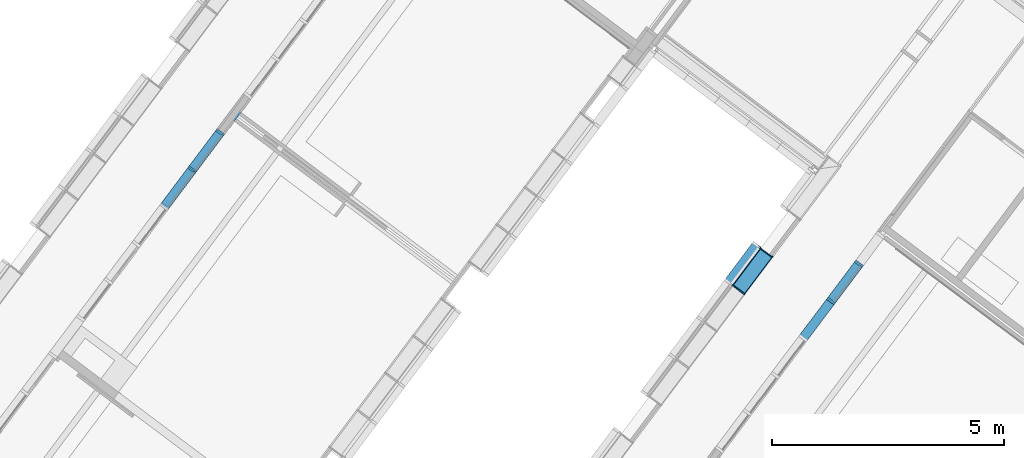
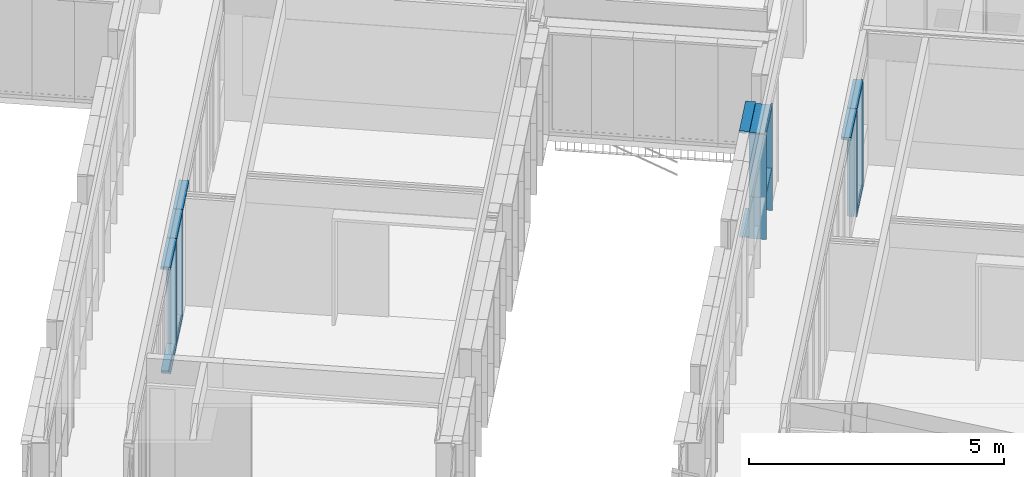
# One storey, part 49 of 243: 20 members, 4 elements without a shape of their own.
"""IFC2X3 building model written with IfcOpenShell, lengths in metres."""

from ifc_helpers import new_model, entity, si_unit, converted_unit, derived_unit, direction, frame, frame_2d, origin, place, context, subcontext, project, spatial, polyline, circle_curve, parameter, trimmed, segment, composite_curve, rectangle, outline, extrude, source, transform, mapped, material, type_object, type_shapes, element, aggregate, save


model = new_model("IFC2X3")

# Units and contexts
model_context = context("Model", 3, precision=1e-05, world=origin(), true_north=direction((6.123031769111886e-17, 1.0)))
body_context = subcontext(model_context, "Body", "Model", "MODEL_VIEW")
ifc_project = project(units=[si_unit("LENGTHUNIT", "METRE"), si_unit("AREAUNIT", "SQUARE_METRE"), si_unit("VOLUMEUNIT", "CUBIC_METRE"), converted_unit("PLANEANGLEUNIT", "DEGREE", entity("IfcRatioMeasure", 0.017453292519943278), si_unit("PLANEANGLEUNIT", "RADIAN"), dimensions=[0, 0, 0, 0, 0, 0, 0]), si_unit("MASSUNIT", "GRAM", prefix="KILO"), derived_unit("MASSDENSITYUNIT", [(si_unit("MASSUNIT", "GRAM", prefix="KILO"), 1), (si_unit("LENGTHUNIT", "METRE"), -3)]), derived_unit("IONCONCENTRATIONUNIT", [(si_unit("MASSUNIT", "GRAM", prefix="KILO"), 1), (si_unit("LENGTHUNIT", "METRE"), -3)]), derived_unit("MOMENTOFINERTIAUNIT", [(si_unit("LENGTHUNIT", "METRE"), 4)]), si_unit("TIMEUNIT", "SECOND"), si_unit("FREQUENCYUNIT", "HERTZ"), si_unit("THERMODYNAMICTEMPERATUREUNIT", "DEGREE_CELSIUS"), derived_unit("THERMALTRANSMITTANCEUNIT", [(si_unit("MASSUNIT", "GRAM", prefix="KILO"), 1), (si_unit("THERMODYNAMICTEMPERATUREUNIT", "KELVIN"), -1), (si_unit("TIMEUNIT", "SECOND"), -3)]), derived_unit("THERMALCONDUCTANCEUNIT", [(si_unit("MASSUNIT", "GRAM", prefix="KILO"), 1), (si_unit("THERMODYNAMICTEMPERATUREUNIT", "KELVIN"), -1), (si_unit("TIMEUNIT", "SECOND"), -3), (si_unit("LENGTHUNIT", "METRE"), 1)]), derived_unit("VOLUMETRICFLOWRATEUNIT", [(si_unit("LENGTHUNIT", "METRE"), 3), (si_unit("TIMEUNIT", "SECOND"), -1)]), derived_unit("MASSFLOWRATEUNIT", [(si_unit("MASSUNIT", "GRAM", prefix="KILO"), 1), (si_unit("TIMEUNIT", "SECOND"), -1)]), derived_unit("ROTATIONALFREQUENCYUNIT", [(si_unit("TIMEUNIT", "SECOND"), -1)]), si_unit("ELECTRICCURRENTUNIT", "AMPERE"), si_unit("ELECTRICVOLTAGEUNIT", "VOLT"), si_unit("POWERUNIT", "WATT"), si_unit("FORCEUNIT", "NEWTON", prefix="KILO"), si_unit("ILLUMINANCEUNIT", "LUX"), si_unit("LUMINOUSFLUXUNIT", "LUMEN"), si_unit("LUMINOUSINTENSITYUNIT", "CANDELA"), derived_unit("USERDEFINED", [(si_unit("MASSUNIT", "GRAM", prefix="KILO"), -1), (si_unit("LENGTHUNIT", "METRE"), -2), (si_unit("TIMEUNIT", "SECOND"), 3), (si_unit("LUMINOUSFLUXUNIT", "LUMEN"), 1)]), derived_unit("USERDEFINED", [(si_unit("MASSUNIT", "GRAM", prefix="KILO"), 1), (si_unit("TIMEUNIT", "SECOND"), -3), (si_unit("LENGTHUNIT", "METRE"), 3), (si_unit("ELECTRICCURRENTUNIT", "AMPERE"), -2)]), derived_unit("SOUNDPOWERUNIT", [(si_unit("MASSUNIT", "GRAM", prefix="KILO"), 1), (si_unit("TIMEUNIT", "SECOND"), -3), (si_unit("LENGTHUNIT", "METRE"), 2)]), derived_unit("SOUNDPRESSUREUNIT", [(si_unit("MASSUNIT", "GRAM", prefix="KILO"), 1), (si_unit("LENGTHUNIT", "METRE"), -1), (si_unit("TIMEUNIT", "SECOND"), -2)]), derived_unit("LINEARVELOCITYUNIT", [(si_unit("LENGTHUNIT", "METRE"), 1), (si_unit("TIMEUNIT", "SECOND"), -1)]), si_unit("PRESSUREUNIT", "PASCAL"), derived_unit("USERDEFINED", [(si_unit("MASSUNIT", "GRAM", prefix="KILO"), 1), (si_unit("LENGTHUNIT", "METRE"), -2), (si_unit("TIMEUNIT", "SECOND"), -2)]), derived_unit("LINEARFORCEUNIT", [(si_unit("MASSUNIT", "GRAM", prefix="KILO"), 1), (si_unit("TIMEUNIT", "SECOND"), -2)]), derived_unit("PLANARFORCEUNIT", [(si_unit("MASSUNIT", "GRAM", prefix="KILO"), 1), (si_unit("LENGTHUNIT", "METRE"), -1), (si_unit("TIMEUNIT", "SECOND"), -2)]), derived_unit("SPECIFICHEATCAPACITYUNIT", [(si_unit("THERMODYNAMICTEMPERATUREUNIT", "KELVIN"), -1), (si_unit("LENGTHUNIT", "METRE"), 2), (si_unit("TIMEUNIT", "SECOND"), -2)]), derived_unit("HEATINGVALUEUNIT", [(si_unit("LENGTHUNIT", "METRE"), 2), (si_unit("TIMEUNIT", "SECOND"), -2)]), derived_unit("VAPORPERMEABILITYUNIT", [(si_unit("LENGTHUNIT", "METRE"), -1), (si_unit("TIMEUNIT", "SECOND"), 1)]), derived_unit("DYNAMICVISCOSITYUNIT", [(si_unit("MASSUNIT", "GRAM", prefix="KILO"), 1), (si_unit("TIMEUNIT", "SECOND"), -1), (si_unit("LENGTHUNIT", "METRE"), -1)]), derived_unit("THERMALEXPANSIONCOEFFICIENTUNIT", [(si_unit("THERMODYNAMICTEMPERATUREUNIT", "KELVIN"), -1)]), derived_unit("MODULUSOFELASTICITYUNIT", [(si_unit("MASSUNIT", "GRAM", prefix="KILO"), 1), (si_unit("LENGTHUNIT", "METRE"), -1), (si_unit("TIMEUNIT", "SECOND"), -2)]), derived_unit("ISOTHERMALMOISTURECAPACITYUNIT", [(si_unit("LENGTHUNIT", "METRE"), 3), (si_unit("MASSUNIT", "GRAM", prefix="KILO"), -1)]), derived_unit("MOISTUREDIFFUSIVITYUNIT", [(si_unit("TIMEUNIT", "SECOND"), -1), (si_unit("LENGTHUNIT", "METRE"), 2)])], contexts=[model_context])

# Site, building, storey
site_placement = place(None, frame((0.0, 0.0, 235.0), z_axis=(0.0, 0.0, 1.0), x_axis=(-0.7996477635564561, 0.6004693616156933, 0.0)))
site = spatial("IfcSite", under=ifc_project, at=site_placement, Name="Default", CompositionType="ELEMENT")
building_placement = place(site_placement, origin())
building = spatial("IfcBuilding", under=site, at=building_placement, CompositionType="ELEMENT")
storey_placement = place(building_placement, origin())
storey = spatial("IfcBuildingStorey", under=building, at=storey_placement, Name="P0- Escola", CompositionType="ELEMENT", Elevation=0.0)

# Curtain wall, members
curtain_wall_type_1 = type_object("IfcCurtainWallType", Name="Muro cortina:MC- INT- a1", PredefinedType="NOTDEFINED")
curtain_wall_1_placement = place(storey_placement, origin())
curtain_wall_1 = element("IfcCurtainWall", 1, at=curtain_wall_1_placement, inside=storey, type_object=curtain_wall_type_1, Name="Muro cortina:MC- INT- a1", ObjectType="Muro cortina:MC- INT- a1")
ifc_material_1 = material(Name="_Fusta massisa- T1")
member_type_1 = type_object("IfcMemberType", Name="Montante rectangular:MC- Fusta- 20x6 cm- Esquerra", PredefinedType="MULLION", material=ifc_material_1)
shared_shape_1 = source(origin(), body_context, "Body", "SweptSolid", [
    extrude(outline(polyline([(-0.07000000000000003, -0.01875000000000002), (-0.04000000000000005, -0.01875000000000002), (-0.04000000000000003, -0.0037500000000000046), (-0.020000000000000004, -0.0037500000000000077), (-0.02, -0.018750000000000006), (0.13, -0.018749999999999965), (0.12999999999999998, 0.04125000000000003), (-0.06999999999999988, 0.04124999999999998), (-0.07000000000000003, -0.01875000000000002)])), frame((-0.041249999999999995, -0.03, -1.0), z_axis=(0.0, 0.0, 1.0), x_axis=(0.0, -1.0, 0.0)), (0.0, 0.0, 1.0), 0.9999999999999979),
])
type_shapes(member_type_1, [shared_shape_1])
member_1_placement = place(curtain_wall_1_placement, frame((47.320147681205, -35.4151899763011, 2.565), z_axis=(0.0, -1.0, 0.0), x_axis=(0.0, 0.0, 1.0)))
member_1 = element("IfcMember", 2, at=member_1_placement, type_object=member_type_1, material=ifc_material_1, Name="Montante rectangular:MC- Fusta- 20x6 cm- Esquerra", ObjectType="Montante rectangular:MC- Fusta- 20x6 cm- Esquerra", context=body_context, shape_type="MappedRepresentation", body=[
    mapped(shared_shape_1, transform((0.0, 0.0, 0.0), scale=1.0)),
])
member_type_2 = type_object("IfcMemberType", Name="Montante rectangular:MC- Fusta- 20x6 cm- Esquerra", PredefinedType="MULLION", material=ifc_material_1)
shared_shape_2 = source(origin(), body_context, "Body", "SweptSolid", [
    extrude(outline(polyline([(-0.07000000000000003, -0.01875000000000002), (-0.04000000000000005, -0.01875000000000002), (-0.04000000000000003, -0.0037500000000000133), (-0.020000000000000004, -0.0037500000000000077), (-0.02, -0.018750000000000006), (0.13, -0.018749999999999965), (0.12999999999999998, 0.04125000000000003), (-0.06999999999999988, 0.04124999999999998), (-0.07000000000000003, -0.01875000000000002)])), frame((-0.01124999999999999, -0.03, -2.5050000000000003), z_axis=(0.0, 0.0, 1.0), x_axis=(0.0, -1.0, 0.0)), (0.0, 0.0, 1.0), 2.5050000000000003),
])
type_shapes(member_type_2, [shared_shape_2])
member_2_placement = place(curtain_wall_1_placement, frame((47.320147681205, -35.4151899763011, 0.0), z_axis=(0.0, 0.0, -1.0), x_axis=(0.0, -1.0, 0.0)))
member_2 = element("IfcMember", 3, at=member_2_placement, type_object=member_type_2, material=ifc_material_1, Name="Montante rectangular:MC- Fusta- 20x6 cm- Esquerra", ObjectType="Montante rectangular:MC- Fusta- 20x6 cm- Esquerra", context=body_context, shape_type="MappedRepresentation", body=[
    mapped(shared_shape_2, transform((0.0, 0.0, 0.0), scale=1.0)),
])

# Curtain wall, member
curtain_wall_2_placement = place(storey_placement, origin())
curtain_wall_2 = element("IfcCurtainWall", 4, at=curtain_wall_2_placement, inside=storey, type_object=curtain_wall_type_1, Name="Muro cortina:MC- INT- a1", ObjectType="Muro cortina:MC- INT- a1")
member_3_placement = place(curtain_wall_2_placement, frame((60.020147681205, -29.415189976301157, 0.0), z_axis=(0.0, 0.0, -1.0), x_axis=(0.0, -1.0, 0.0)))
member_3 = element("IfcMember", 5, at=member_3_placement, type_object=member_type_2, material=ifc_material_1, Name="Montante rectangular:MC- Fusta- 20x6 cm- Esquerra", ObjectType="Montante rectangular:MC- Fusta- 20x6 cm- Esquerra", context=body_context, shape_type="MappedRepresentation", body=[
    mapped(shared_shape_2, transform((0.0, 0.0, 0.0), scale=1.0)),
])

# Member
member_type_3 = type_object("IfcMemberType", Name="Montante rectangular:MC- Fusta- 20x6 cm- Neutre", PredefinedType="MULLION", material=ifc_material_1)
shared_shape_3 = source(origin(), body_context, "Body", "SweptSolid", [
    extrude(rectangle(XDim=0.2, YDim=0.060000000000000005, at=frame_2d((-4.85722573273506e-17, -3.469446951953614e-18), x_axis=(1.0, 0.0))), frame((-0.03, -0.060000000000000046, -1.0), z_axis=(0.0, 0.0, 1.0), x_axis=(0.0, -1.0, 0.0)), (0.0, 0.0, 1.0), 0.9999999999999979),
])
type_shapes(member_type_3, [shared_shape_3])
member_4_placement = place(curtain_wall_1_placement, frame((47.320147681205, -34.41518997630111, 2.565), z_axis=(0.0, -1.0, 0.0), x_axis=(0.0, 0.0, 1.0)))
member_4 = element("IfcMember", 6, at=member_4_placement, type_object=member_type_3, material=ifc_material_1, Name="Montante rectangular:MC- Fusta- 20x6 cm- Neutre", ObjectType="Montante rectangular:MC- Fusta- 20x6 cm- Neutre", context=body_context, shape_type="MappedRepresentation", body=[
    mapped(shared_shape_3, transform((0.0, 0.0, 0.0), scale=1.0)),
])

member_5_placement = place(curtain_wall_2_placement, frame((60.020147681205, -30.415189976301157, 2.565), z_axis=(0.0, -1.0, 0.0), x_axis=(0.0, 0.0, 1.0)))
member_5 = element("IfcMember", 7, at=member_5_placement, type_object=member_type_3, material=ifc_material_1, Name="Montante rectangular:MC- Fusta- 20x6 cm- Neutre", ObjectType="Montante rectangular:MC- Fusta- 20x6 cm- Neutre", context=body_context, shape_type="MappedRepresentation", body=[
    mapped(shared_shape_3, transform((0.0, 0.0, 0.0), scale=1.0)),
])

member_type_4 = type_object("IfcMemberType", Name="Montante rectangular:MC- Fusta- 20x6 cm- Dreta", PredefinedType="MULLION", material=ifc_material_1)
shared_shape_4 = source(origin(), body_context, "Body", "SweptSolid", [
    extrude(outline(polyline([(-0.07000000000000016, -0.041249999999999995), (0.13000000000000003, -0.041249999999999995), (0.13000000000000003, 0.01875), (-0.019999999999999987, 0.01875), (-0.019999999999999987, 0.00375), (-0.04000000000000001, 0.00375), (-0.03999999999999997, 0.01875), (-0.06999999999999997, 0.01875), (-0.07000000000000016, -0.041249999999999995)])), frame((0.011250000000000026, -0.02999999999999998, -2.5050000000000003), z_axis=(0.0, 0.0, 1.0), x_axis=(0.0, -1.0, 0.0)), (0.0, 0.0, 1.0), 2.5050000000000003),
])
type_shapes(member_type_4, [shared_shape_4])
member_6_placement = place(curtain_wall_1_placement, frame((47.320147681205, -34.41518997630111, 0.0), z_axis=(0.0, 0.0, -1.0), x_axis=(0.0, -1.0, 0.0)))
member_6 = element("IfcMember", 8, at=member_6_placement, type_object=member_type_4, material=ifc_material_1, Name="Montante rectangular:MC- Fusta- 20x6 cm- Dreta", ObjectType="Montante rectangular:MC- Fusta- 20x6 cm- Dreta", context=body_context, shape_type="MappedRepresentation", body=[
    mapped(shared_shape_4, transform((0.0, 0.0, 0.0), scale=1.0)),
])

member_type_5 = type_object("IfcMemberType", Name="Montante rectangular:MC- Fusta- 20x6 cm- Esquerra", PredefinedType="MULLION", material=ifc_material_1)
shared_shape_5 = source(origin(), body_context, "Body", "SweptSolid", [
    extrude(outline(polyline([(-0.07000000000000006, -0.01875000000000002), (-0.04000000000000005, -0.01875000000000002), (-0.04000000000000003, -0.0037500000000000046), (-0.02, -0.0037500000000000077), (-0.019999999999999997, -0.018750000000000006), (0.13, -0.018749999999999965), (0.12999999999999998, 0.04125000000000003), (-0.06999999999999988, 0.04124999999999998), (-0.07000000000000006, -0.01875000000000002)])), frame((-0.041249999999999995, -0.029999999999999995, -1.0), z_axis=(0.0, 0.0, 1.0), x_axis=(0.0, -1.0, 0.0)), (0.0, 0.0, 1.0), 0.9999999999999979),
])
type_shapes(member_type_5, [shared_shape_5])
member_7_placement = place(curtain_wall_2_placement, frame((60.020147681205, -29.415189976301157, 2.565), z_axis=(0.0, -1.0, 0.0), x_axis=(0.0, 0.0, 1.0)))
member_7 = element("IfcMember", 9, at=member_7_placement, type_object=member_type_5, material=ifc_material_1, Name="Montante rectangular:MC- Fusta- 20x6 cm- Esquerra", ObjectType="Montante rectangular:MC- Fusta- 20x6 cm- Esquerra", context=body_context, shape_type="MappedRepresentation", body=[
    mapped(shared_shape_5, transform((0.0, 0.0, 0.0), scale=1.0)),
])

member_type_6 = type_object("IfcMemberType", Name="Montante rectangular:MC- Fusta- 20x6 cm- Centre", PredefinedType="MULLION", material=ifc_material_1)
shared_shape_6 = source(origin(), body_context, "Body", "SweptSolid", [
    extrude(outline(polyline([(-0.06000000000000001, -0.030000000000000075), (-0.03, -0.030000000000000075), (-0.029999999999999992, -0.015000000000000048), (-0.009999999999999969, -0.01499999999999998), (-0.009999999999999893, -0.030000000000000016), (0.14000000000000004, -0.029999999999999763), (0.13999999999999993, 0.030000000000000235), (-0.010000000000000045, 0.02999999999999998), (-0.01000000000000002, 0.014999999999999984), (-0.030000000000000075, 0.014999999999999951), (-0.03000000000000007, 0.029999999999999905), (-0.059999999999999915, 0.029999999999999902), (-0.06000000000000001, -0.030000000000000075)])), frame((0.0, -0.019999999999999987, -2.505000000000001), z_axis=(0.0, 0.0, 1.0), x_axis=(0.0, -1.0, 0.0)), (0.0, 0.0, 1.0), 2.5050000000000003),
])
type_shapes(member_type_6, [shared_shape_6])
member_8_placement = place(curtain_wall_2_placement, frame((60.020147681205, -28.41518997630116, 0.0), z_axis=(0.0, 0.0, -1.0), x_axis=(0.0, -1.0, 0.0)))
member_8 = element("IfcMember", 10, at=member_8_placement, type_object=member_type_6, material=ifc_material_1, Name="Montante rectangular:MC- Fusta- 20x6 cm- Centre", ObjectType="Montante rectangular:MC- Fusta- 20x6 cm- Centre", context=body_context, shape_type="MappedRepresentation", body=[
    mapped(shared_shape_6, transform((0.0, 0.0, 0.0), scale=1.0)),
])

member_type_7 = type_object("IfcMemberType", Name="Montante rectangular:MC- Fusta- 20x6 cm- Esquerra", PredefinedType="MULLION", material=ifc_material_1)
shared_shape_7 = source(origin(), body_context, "Body", "SweptSolid", [
    extrude(outline(polyline([(-0.07000000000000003, -0.01875000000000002), (-0.04000000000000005, -0.01875000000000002), (-0.04000000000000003, -0.0037500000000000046), (-0.020000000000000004, -0.0037500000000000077), (-0.02, -0.018750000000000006), (0.13, -0.018749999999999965), (0.12999999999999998, 0.04125000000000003), (-0.06999999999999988, 0.04124999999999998), (-0.07000000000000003, -0.01875000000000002)])), frame((-0.041249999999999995, -0.03, -1.0), z_axis=(0.0, 0.0, 1.0), x_axis=(0.0, -1.0, 0.0)), (0.0, 0.0, 1.0), 0.9999999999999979),
])
type_shapes(member_type_7, [shared_shape_7])
member_9_placement = place(curtain_wall_2_placement, frame((60.020147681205, -28.41518997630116, 2.565), z_axis=(0.0, -1.0, 0.0), x_axis=(0.0, 0.0, 1.0)))
member_9 = element("IfcMember", 11, at=member_9_placement, type_object=member_type_7, material=ifc_material_1, Name="Montante rectangular:MC- Fusta- 20x6 cm- Esquerra", ObjectType="Montante rectangular:MC- Fusta- 20x6 cm- Esquerra", context=body_context, shape_type="MappedRepresentation", body=[
    mapped(shared_shape_7, transform((0.0, 0.0, 0.0), scale=1.0)),
])

member_type_8 = type_object("IfcMemberType", Name="Montante rectangular:MC- Fusta- 20x6 cm- Inferior", PredefinedType="MULLION", material=ifc_material_1)
shared_shape_8 = source(origin(), body_context, "Body", "SweptSolid", [
    extrude(outline(polyline([(-0.06999999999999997, -0.018750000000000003), (-0.039999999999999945, -0.018750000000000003), (-0.03999999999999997, -0.003750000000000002), (-0.019999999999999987, -0.0037500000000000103), (-0.019999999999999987, -0.018750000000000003), (0.13000000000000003, -0.018750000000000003), (0.13000000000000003, 0.041249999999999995), (-0.07000000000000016, 0.041249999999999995), (-0.06999999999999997, -0.018750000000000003)])), frame((-0.041249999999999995, -0.02999999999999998, -0.9399999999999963), z_axis=(0.0, 0.0, 1.0), x_axis=(0.0, -1.0, 0.0)), (0.0, 0.0, 1.0), 0.9399999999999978),
])
type_shapes(member_type_8, [shared_shape_8])
member_10_placement = place(curtain_wall_1_placement, frame((47.320147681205, -34.44518997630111, 0.0), z_axis=(0.0, 1.0, 0.0), x_axis=(0.0, 0.0, -1.0)))
member_10 = element("IfcMember", 12, at=member_10_placement, type_object=member_type_8, material=ifc_material_1, Name="Montante rectangular:MC- Fusta- 20x6 cm- Inferior", ObjectType="Montante rectangular:MC- Fusta- 20x6 cm- Inferior", context=body_context, shape_type="MappedRepresentation", body=[
    mapped(shared_shape_8, transform((0.0, 0.0, 0.0), scale=1.0)),
])

aggregate(curtain_wall_1, [member_1, member_2, member_4, member_6, member_10])

member_11_placement = place(curtain_wall_2_placement, frame((60.020147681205, -28.44518997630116, 0.0), z_axis=(0.0, 1.0, 0.0), x_axis=(0.0, 0.0, -1.0)))
member_11 = element("IfcMember", 13, at=member_11_placement, type_object=member_type_8, material=ifc_material_1, Name="Montante rectangular:MC- Fusta- 20x6 cm- Inferior", ObjectType="Montante rectangular:MC- Fusta- 20x6 cm- Inferior", context=body_context, shape_type="MappedRepresentation", body=[
    mapped(shared_shape_8, transform((0.0, 0.0, 0.0), scale=1.0)),
])

member_12_placement = place(curtain_wall_2_placement, frame((60.02014768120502, -27.445189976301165, 0.0), z_axis=(0.0, 1.0, 0.0), x_axis=(0.0, 0.0, -1.0)))
member_12 = element("IfcMember", 14, at=member_12_placement, type_object=member_type_8, material=ifc_material_1, Name="Montante rectangular:MC- Fusta- 20x6 cm- Inferior", ObjectType="Montante rectangular:MC- Fusta- 20x6 cm- Inferior", context=body_context, shape_type="MappedRepresentation", body=[
    mapped(shared_shape_8, transform((0.0, 0.0, 0.0), scale=1.0)),
])

aggregate(curtain_wall_2, [member_5, member_7, member_3, member_9, member_8, member_11, member_12])

# Curtain wall, members
curtain_wall_type_2 = type_object("IfcCurtainWallType", Name="Muro cortina:MC- INT- k2", PredefinedType="NOTDEFINED")
curtain_wall_3_placement = place(storey_placement, origin())
curtain_wall_3 = element("IfcCurtainWall", 15, at=curtain_wall_3_placement, inside=storey, type_object=curtain_wall_type_2, Name="Muro cortina:MC- INT- k2", ObjectType="Muro cortina:MC- INT- k2")
member_type_9 = type_object("IfcMemberType", Name="Montante rectangular:MC- Fusta- 35x3 cm- Centre", PredefinedType="MULLION", material=ifc_material_1)
shared_shape_9 = source(origin(), body_context, "Body", "SweptSolid", [
    extrude(rectangle(XDim=0.3450000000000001, YDim=0.030000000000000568, at=frame_2d((0.0, -1.3964523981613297e-16), x_axis=(1.0, 0.0))), frame((0.0, -0.07750000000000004, -1.0), z_axis=(0.0, 0.0, 1.0), x_axis=(0.0, -1.0, 0.0)), (0.0, 0.0, 1.0), 1.0),
])
type_shapes(member_type_9, [shared_shape_9])
member_13_placement = place(curtain_wall_3_placement, frame((49.04514768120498, -33.41519175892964, 0.0), z_axis=(0.0, 0.0, -1.0), x_axis=(0.0, -1.0, 0.0)))
member_13 = element("IfcMember", 16, at=member_13_placement, type_object=member_type_9, material=ifc_material_1, Name="Montante rectangular:MC- Fusta- 35x3 cm- Centre", ObjectType="Montante rectangular:MC- Fusta- 35x3 cm- Centre", context=body_context, shape_type="MappedRepresentation", body=[
    mapped(shared_shape_9, transform((0.0, 0.0, 0.0), scale=1.0)),
])
member_type_10 = type_object("IfcMemberType", Name="Montante rectangular:MC- Fusta- 35x3 cm- Pati aules- Remat superior", PredefinedType="MULLION", material=ifc_material_1)
shared_shape_10 = source(origin(), body_context, "Body", "SweptSolid", [
    extrude(outline(polyline([(-0.12166666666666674, -0.02666666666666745), (0.21333333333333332, -0.02666666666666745), (0.2133333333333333, -0.006666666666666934), (-0.09166666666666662, -0.006666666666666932), (-0.09166666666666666, 0.03333333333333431), (-0.12166666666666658, 0.03333333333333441), (-0.12166666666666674, -0.02666666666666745)])), frame((-0.033333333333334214, -0.026666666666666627, -1.0), z_axis=(0.0, 0.0, 1.0), x_axis=(0.0, -1.0, 0.0)), (0.0, 0.0, 1.0), 0.9999999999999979),
])
type_shapes(member_type_10, [shared_shape_10])
member_14_placement = place(curtain_wall_3_placement, frame((49.04514768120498, -34.41519175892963, 2.565), z_axis=(0.0, -1.0, 0.0), x_axis=(0.0, 0.0, 1.0)))
member_14 = element("IfcMember", 17, at=member_14_placement, type_object=member_type_10, material=ifc_material_1, Name="Montante rectangular:MC- Fusta- 35x3 cm- Pati aules- Remat superior", ObjectType="Montante rectangular:MC- Fusta- 35x3 cm- Pati aules- Remat superior", context=body_context, shape_type="MappedRepresentation", body=[
    mapped(shared_shape_10, transform((0.0, 0.0, 0.0), scale=1.0)),
])
member_type_11 = type_object("IfcMemberType", Name="Montante rectangular:MC- Fusta- 35x3 cm- Pati aules- Remat dreta", PredefinedType="MULLION", material=ifc_material_1)
shared_shape_11 = source(origin(), body_context, "Body", "SweptSolid", [
    extrude(outline(polyline([(-0.12500000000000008, -0.01666666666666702), (0.22, -0.01666666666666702), (0.22000000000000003, 0.003333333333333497), (-0.09499999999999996, 0.003333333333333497), (-0.09499999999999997, 0.013333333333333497), (-0.12500000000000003, 0.013333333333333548), (-0.12500000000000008, -0.01666666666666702)])), frame((0.00166666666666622, -0.03000000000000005, -1.0), z_axis=(0.0, 0.0, 1.0), x_axis=(0.0, -1.0, 0.0)), (0.0, 0.0, 1.0), 1.0),
])
type_shapes(member_type_11, [shared_shape_11])
member_15_placement = place(curtain_wall_3_placement, frame((49.04514768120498, -34.41519175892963, 0.0), z_axis=(0.0, 0.0, -1.0), x_axis=(0.0, -1.0, 0.0)))
member_15 = element("IfcMember", 18, at=member_15_placement, type_object=member_type_11, material=ifc_material_1, Name="Montante rectangular:MC- Fusta- 35x3 cm- Pati aules- Remat dreta", ObjectType="Montante rectangular:MC- Fusta- 35x3 cm- Pati aules- Remat dreta", context=body_context, shape_type="MappedRepresentation", body=[
    mapped(shared_shape_11, transform((0.0, 0.0, 0.0), scale=1.0)),
])
member_type_12 = type_object("IfcMemberType", Name="Montante rectangular:MC- Fusta- 35x3 cm- Pati aules- Prestatge", PredefinedType="MULLION", material=ifc_material_1)
shared_shape_12 = source(origin(), body_context, "Body", "SweptSolid", [
    extrude(rectangle(XDim=0.30000000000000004, YDim=0.03000000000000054, at=frame_2d((0.0, -1.231653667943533e-16), x_axis=(1.0, 0.0))), frame((0.0, -0.07000000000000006, -0.9699999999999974), z_axis=(0.0, 0.0, 1.0), x_axis=(0.0, -1.0, 0.0)), (0.0, 0.0, 1.0), 0.969999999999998),
])
type_shapes(member_type_12, [shared_shape_12])
member_16_placement = place(curtain_wall_3_placement, frame((49.04514768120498, -34.40019175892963, 1.0), z_axis=(0.0, -1.0, 0.0), x_axis=(0.0, 0.0, 1.0)))
member_16 = element("IfcMember", 19, at=member_16_placement, type_object=member_type_12, material=ifc_material_1, Name="Montante rectangular:MC- Fusta- 35x3 cm- Pati aules- Prestatge", ObjectType="Montante rectangular:MC- Fusta- 35x3 cm- Pati aules- Prestatge", context=body_context, shape_type="MappedRepresentation", body=[
    mapped(shared_shape_12, transform((0.0, 0.0, 0.0), scale=1.0)),
])
member_type_13 = type_object("IfcMemberType", Name="Montante rectangular:MC- Fusta- 35x3 cm- Centre", PredefinedType="MULLION", material=ifc_material_1)
shared_shape_13 = source(origin(), body_context, "Body", "SweptSolid", [
    extrude(rectangle(XDim=0.3450000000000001, YDim=0.030000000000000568, at=frame_2d((0.0, -1.3964523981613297e-16), x_axis=(1.0, 0.0))), frame((0.0, -0.07750000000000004, -1.504999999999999), z_axis=(0.0, 0.0, 1.0), x_axis=(0.0, -1.0, 0.0)), (0.0, 0.0, 1.0), 1.504999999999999),
])
type_shapes(member_type_13, [shared_shape_13])
member_17_placement = place(curtain_wall_3_placement, frame((49.04514768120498, -33.41519175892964, 1.0), z_axis=(0.0, 0.0, -1.0), x_axis=(0.0, -1.0, 0.0)))
member_17 = element("IfcMember", 20, at=member_17_placement, type_object=member_type_13, material=ifc_material_1, Name="Montante rectangular:MC- Fusta- 35x3 cm- Centre", ObjectType="Montante rectangular:MC- Fusta- 35x3 cm- Centre", context=body_context, shape_type="MappedRepresentation", body=[
    mapped(shared_shape_13, transform((0.0, 0.0, 0.0), scale=1.0)),
])
member_type_14 = type_object("IfcMemberType", Name="Montante rectangular:MC- Fusta- 35x3 cm- Pati aules- Remat dreta", PredefinedType="MULLION", material=ifc_material_1)
shared_shape_14 = source(origin(), body_context, "Body", "SweptSolid", [
    extrude(outline(polyline([(-0.12500000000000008, -0.01666666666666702), (0.22, -0.01666666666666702), (0.22000000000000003, 0.003333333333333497), (-0.09499999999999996, 0.003333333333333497), (-0.09499999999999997, 0.013333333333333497), (-0.12500000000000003, 0.013333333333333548), (-0.12500000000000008, -0.01666666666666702)])), frame((0.00166666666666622, -0.03000000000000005, -1.504999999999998), z_axis=(0.0, 0.0, 1.0), x_axis=(0.0, -1.0, 0.0)), (0.0, 0.0, 1.0), 1.504999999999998),
])
type_shapes(member_type_14, [shared_shape_14])
member_18_placement = place(curtain_wall_3_placement, frame((49.04514768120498, -34.41519175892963, 1.0), z_axis=(0.0, 0.0, -1.0), x_axis=(0.0, -1.0, 0.0)))
member_18 = element("IfcMember", 21, at=member_18_placement, type_object=member_type_14, material=ifc_material_1, Name="Montante rectangular:MC- Fusta- 35x3 cm- Pati aules- Remat dreta", ObjectType="Montante rectangular:MC- Fusta- 35x3 cm- Pati aules- Remat dreta", context=body_context, shape_type="MappedRepresentation", body=[
    mapped(shared_shape_14, transform((0.0, 0.0, 0.0), scale=1.0)),
])
aggregate(curtain_wall_3, [member_13, member_14, member_15, member_16, member_17, member_18])

curtain_wall_type_3 = type_object("IfcCurtainWallType", Name="Muro cortina:MC- EXT- MC5", PredefinedType="NOTDEFINED")
curtain_wall_4_placement = place(storey_placement, origin())
curtain_wall_4 = element("IfcCurtainWall", 22, at=curtain_wall_4_placement, inside=storey, type_object=curtain_wall_type_3, Name="Muro cortina:MC- EXT- MC5", ObjectType="Muro cortina:MC- EXT- MC5")
ifc_material_2 = material(Name="_Alumini- T1- Perfil")
member_type_15 = type_object("IfcMemberType", Name="Montante rectangular:MC- Alu- 140x52,5 cm- Fa patis- inferior", PredefinedType="MULLION", material=ifc_material_2)
shared_shape_15 = source(origin(), body_context, "Body", "SweptSolid", [
    extrude(outline(composite_curve([segment(polyline([(-0.144167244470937, -0.025867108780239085), (-0.12786724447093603, -0.02586710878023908)]), True, "CONTINUOUS"), segment(polyline([(-0.12786724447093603, -0.02586710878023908), (-0.12786724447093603, -0.023167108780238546)]), True, "CONTINUOUS"), segment(polyline([(-0.12786724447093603, -0.023167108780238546), (-0.0678672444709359, -0.023167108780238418)]), True, "CONTINUOUS"), segment(polyline([(-0.0678672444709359, -0.023167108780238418), (0.07031215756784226, -0.010722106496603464)]), True, "CONTINUOUS"), segment(trimmed(circle_curve(frame_2d((0.07013275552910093, -0.008730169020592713), x_axis=(0.0897010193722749, -0.9959687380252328)), 0.0019999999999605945), [parameter(0.0)], [parameter(84.8535928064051)], True, "PARAMETER"), True, "CONTINUOUS"), segment(polyline([(0.07213275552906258, -0.008730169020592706), (0.07213275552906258, 0.006266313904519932)]), True, "CONTINUOUS"), segment(trimmed(circle_curve(frame_2d((0.07013275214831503, 0.006266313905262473), x_axis=(1.0, 0.0)), 0.0020000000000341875), [parameter(0.0)], [parameter(90.00000002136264)], True, "PARAMETER"), True, "CONTINUOUS"), segment(polyline([(0.070132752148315, 0.008266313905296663), (0.06213275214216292, 0.008266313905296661)]), True, "CONTINUOUS"), segment(polyline([(0.06213275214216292, 0.008266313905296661), (0.06213275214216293, 0.006266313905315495)]), True, "CONTINUOUS"), segment(polyline([(0.06213275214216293, 0.006266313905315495), (0.06963275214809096, 0.006266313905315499)]), True, "CONTINUOUS"), segment(trimmed(circle_curve(frame_2d((0.06963275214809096, 0.005766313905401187), x_axis=(0.0, 1.0)), 0.0004999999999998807), [parameter(269.9999999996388)], [parameter(0.0)], True, "PARAMETER"), False, "CONTINUOUS"), segment(polyline([(0.07013275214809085, 0.005766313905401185), (0.07013275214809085, -0.008730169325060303)]), True, "CONTINUOUS"), segment(polyline([(0.07013275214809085, -0.008730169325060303), (0.03213275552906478, -0.012152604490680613)]), True, "CONTINUOUS"), segment(polyline([(0.03213275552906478, -0.0121526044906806), (0.03213275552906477, 0.029132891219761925)]), True, "CONTINUOUS"), segment(polyline([(0.03213275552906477, 0.029132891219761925), (0.0021327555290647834, 0.029132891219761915)]), True, "CONTINUOUS"), segment(polyline([(0.0021327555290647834, 0.029132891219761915), (0.0021327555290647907, 0.02713289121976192)]), True, "CONTINUOUS"), segment(polyline([(0.0021327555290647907, 0.02713289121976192), (0.03013275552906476, 0.02713289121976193)]), True, "CONTINUOUS"), segment(polyline([(0.03013275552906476, 0.027132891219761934), (0.03013275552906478, -0.012332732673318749)]), True, "CONTINUOUS"), segment(polyline([(0.03013275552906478, -0.012332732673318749), (-0.06786724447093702, -0.021159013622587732)]), True, "CONTINUOUS"), segment(polyline([(-0.06786724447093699, -0.02115901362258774), (-0.067867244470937, 0.009132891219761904)]), True, "CONTINUOUS"), segment(polyline([(-0.06786724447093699, 0.009132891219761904), (-0.14416724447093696, 0.009132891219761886)]), True, "CONTINUOUS"), segment(polyline([(-0.14416724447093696, 0.009132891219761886), (-0.144167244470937, -0.025867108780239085)]), True, "CONTINUOUS")], self_intersect=False)), frame((-0.029132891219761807, -0.06786724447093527, -0.9737499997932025), z_axis=(0.0, 0.0, 1.0), x_axis=(0.0, -1.0, 0.0)), (0.0, 0.0, 1.0), 0.9737499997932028),
])
type_shapes(member_type_15, [shared_shape_15])
member_19_placement = place(curtain_wall_4_placement, frame((49.34514768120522, -33.415191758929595, -0.02), z_axis=(0.0, 1.0, 0.0), x_axis=(0.0, 0.0, -1.0)))
member_19 = element("IfcMember", 23, at=member_19_placement, type_object=member_type_15, material=ifc_material_2, Name="Montante rectangular:MC- Alu- 140x52,5 cm- Fa patis- inferior", ObjectType="Montante rectangular:MC- Alu- 140x52,5 cm- Fa patis- inferior", context=body_context, shape_type="MappedRepresentation", body=[
    mapped(shared_shape_15, transform((0.0, 0.0, 0.0), scale=1.0)),
])
member_type_16 = type_object("IfcMemberType", Name="Montante rectangular:MC- Alu- 140x52,5 cm- Fa patis- Superior", PredefinedType="MULLION", material=ifc_material_2)
shared_shape_16 = source(origin(), body_context, "Body", "SweptSolid", [
    extrude(outline(polyline([(-0.026333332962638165, -0.021249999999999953), (0.11366666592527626, -0.021249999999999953), (0.11366666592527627, 0.031250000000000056), (-0.08733333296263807, 0.03125000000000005), (-0.0873333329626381, -0.010000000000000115), (-0.026333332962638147, -0.010000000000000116), (-0.026333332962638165, -0.021249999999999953)])), frame((-0.031250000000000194, -0.02733333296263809, -1.0262500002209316), z_axis=(0.0, 0.0, 1.0), x_axis=(0.0, -1.0, 0.0)), (0.0, 0.0, 1.0), 1.0262500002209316),
])
type_shapes(member_type_16, [shared_shape_16])
member_20_placement = place(curtain_wall_4_placement, frame((49.345147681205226, -34.441441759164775, 2.545), z_axis=(0.0, -1.0, 0.0), x_axis=(0.0, 0.0, 1.0)))
member_20 = element("IfcMember", 24, at=member_20_placement, type_object=member_type_16, material=ifc_material_2, Name="Montante rectangular:MC- Alu- 140x52,5 cm- Fa patis- Superior", ObjectType="Montante rectangular:MC- Alu- 140x52,5 cm- Fa patis- Superior", context=body_context, shape_type="MappedRepresentation", body=[
    mapped(shared_shape_16, transform((0.0, 0.0, 0.0), scale=1.0)),
])
aggregate(curtain_wall_4, [member_19, member_20])

save(model, "model.ifc")
